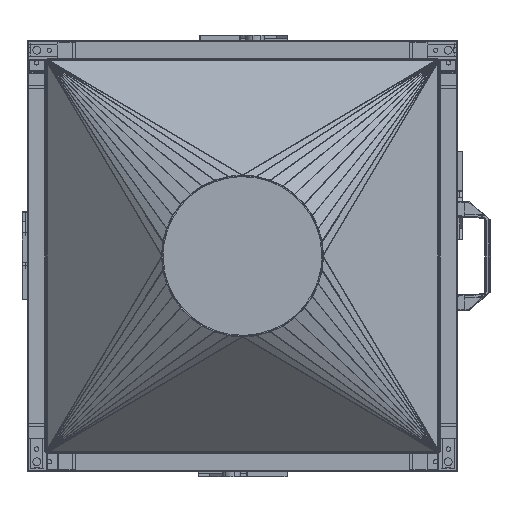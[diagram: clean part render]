
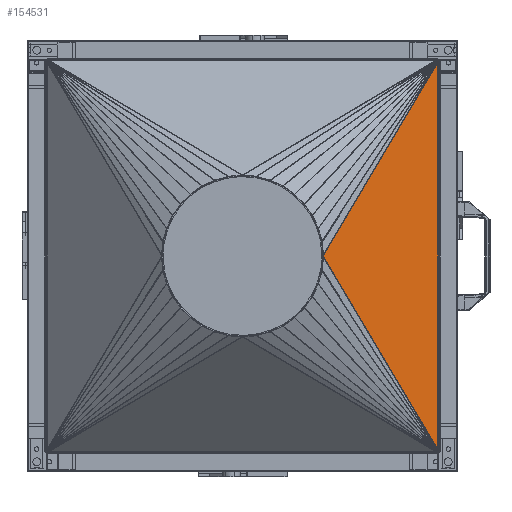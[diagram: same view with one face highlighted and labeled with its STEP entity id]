
A CAD part, left-side view. The second image highlights one B-rep face of the part: STEP entity #154531.
In plain terms, the highlighted planar face has unit normal (-0.717, -0.697, 0).
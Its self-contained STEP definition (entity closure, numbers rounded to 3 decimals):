
#14065=LINE('',#238030,#29372);
#14193=LINE('',#238748,#29500);
#14194=LINE('',#238749,#29501);
#14195=LINE('',#238750,#29502);
#29372=VECTOR('',#188818,10.);
#29500=VECTOR('',#189192,10.);
#29501=VECTOR('',#189193,10.);
#29502=VECTOR('',#189194,10.);
#42578=FACE_OUTER_BOUND('',#51715,.T.);
#51715=EDGE_LOOP('',(#109902,#109903,#109904,#109905));
#64884=VERTEX_POINT('',#238023);
#64886=VERTEX_POINT('',#238029);
#64994=VERTEX_POINT('',#238746);
#64995=VERTEX_POINT('',#238747);
#80719=EDGE_CURVE('',#64884,#64886,#14065,.T.);
#80913=EDGE_CURVE('',#64994,#64995,#14193,.T.);
#80914=EDGE_CURVE('',#64886,#64995,#14194,.T.);
#80915=EDGE_CURVE('',#64884,#64994,#14195,.T.);
#109902=ORIENTED_EDGE('',*,*,#80913,.T.);
#109903=ORIENTED_EDGE('',*,*,#80914,.F.);
#109904=ORIENTED_EDGE('',*,*,#80719,.F.);
#109905=ORIENTED_EDGE('',*,*,#80915,.T.);
#139795=PLANE('',#165013);
#154531=ADVANCED_FACE('',(#42578),#139795,.F.);
#165013=AXIS2_PLACEMENT_3D('',#238745,#189190,#189191);
#188818=DIRECTION('',(0.,0.,1.));
#189190=DIRECTION('center_axis',(0.717,0.697,0.));
#189191=DIRECTION('ref_axis',(0.,0.,
-1.));
#189192=DIRECTION('',(0.,0.,1.));
#189193=DIRECTION('',(0.444,-0.457,0.771));
#189194=DIRECTION('',(0.444,-0.457,-0.771));
#238023=CARTESIAN_POINT('',(-701.331,-126.036,332.999));
#238029=CARTESIAN_POINT('',(-701.331,-126.036,332.999));
#238030=CARTESIAN_POINT('',(-701.331,-126.036,332.894));
#238745=CARTESIAN_POINT('Origin',(-701.331,-126.036,332.999));
#238746=CARTESIAN_POINT('',(-527.213,-305.137,30.701));
#238747=CARTESIAN_POINT('',(-527.216,-305.137,635.299));
#238748=CARTESIAN_POINT('',(-527.213,-305.137,181.85));
#238749=CARTESIAN_POINT('',(-701.331,-126.036,332.999));
#238750=CARTESIAN_POINT('',(-701.331,-126.036,332.999));
